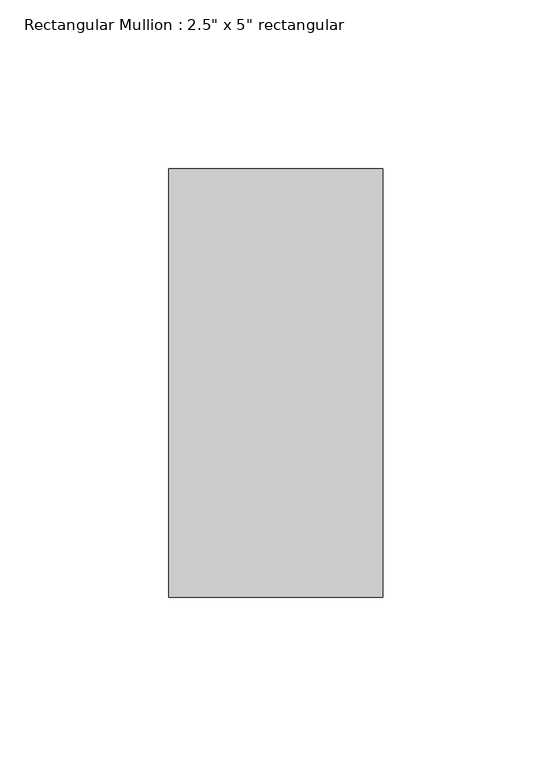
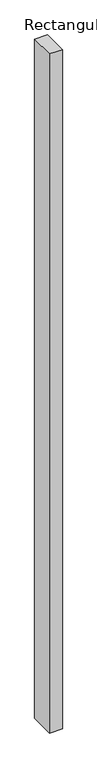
"""IFC4 building model written with IfcOpenShell, lengths in millimetres: member geometry."""

from ifc_helpers import new_model, si_unit, frame, origin, place, context, project, spatial, polyline, outline, extrude, source, transform, mapped, element, save


def member_5478dbfe(model_context):
    return source(origin(), model_context, "Body", "SweptSolid", [
        extrude(outline(polyline([(31.75, 63.5), (31.75, -63.5), (-31.75, -63.5), (-31.75, 63.5), (31.75, 63.5)])), frame((0.0, 0.0, -3559.96875), z_axis=(0.0, 0.0, 1.0), x_axis=(1.0, 0.0, 0.0)), (0.0, 0.0, 1.0), 3559.96875),
    ])


if __name__ == "__main__":
    model = new_model("IFC4")
    model_context = context("Model", 3, world=origin())
    ifc_project = project(units=[si_unit("LENGTHUNIT", "METRE", prefix="MILLI")], contexts=[model_context])
    site = spatial("IfcSite", under=ifc_project)
    building = spatial("IfcBuilding", under=site)
    placement = place(None, origin())
    member_shape = member_5478dbfe(model_context)
    element("IfcMember", 1, ObjectType="Rectangular Mullion : 2.5\" x 5\" rectangular", at=placement, inside=building, context=model_context, shape_type="MappedRepresentation", body=[
        mapped(member_shape, transform((0.0, 0.0, 0.0), x_axis=(1.0, 0.0, 0.0), y_axis=(0.0, 1.0, 0.0), z_axis=(0.0, 0.0, 1.0))),
    ])
    save(model, "model.ifc")
